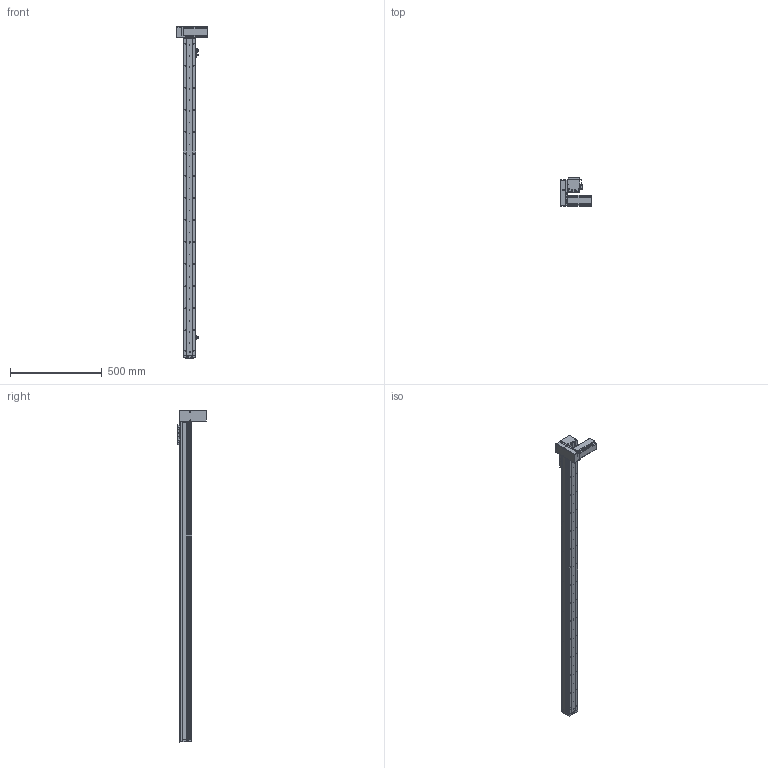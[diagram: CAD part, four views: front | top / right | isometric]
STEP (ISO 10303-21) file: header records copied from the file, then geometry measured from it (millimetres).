
FILE_DESCRIPTION (( 'STEP AP214' ), '1' );
FILE_NAME ('KSD68BS-S1550-MRD-CR.STEP', '2019-11-08T03:47:32', ( '微软用户' ), ( '微软中国' ), 'SwSTEP 2.0', 'SolidWorks 2014', '' );
FILE_SCHEMA (( 'AUTOMOTIVE_DESIGN' ));
Length unit declared in the file: millimetre
Products named in the file (14): KSD68BS 1550行程盖板全封闭; KSD68BS-S1550-MRD-CR; 68遵裔啣揤啣1; 68宽单导轨全封闭丝杆传动安装板1防护罩; KSD68BS 1550行程侧板全封闭; 68宽单导轨全封闭同步带端板; 68单导轨全封闭同步带电机座右; 68单导轨全封闭同步带安装板; 悵誘欶奻狟殏; 68宽马达安装板连板上折同步带; 感应片68宽全封闭; U倰嫖萇EEㄜSX672; 台达ECMA－C20604AS伺服电机（400W); KSD68BS 1550行程底板全封闭
Assembly tree (17 placements, depth 2):
  KSD68BS-S1550-MRD-CR
    KSD68BS 1550行程底板全封闭
    台达ECMA－C20604AS伺服电机（400W)
    U倰嫖萇EEㄜSX672  x3
    感应片68宽全封闭
    68宽马达安装板连板上折同步带
    悵誘欶奻狟殏
    68单导轨全封闭同步带安装板
    68单导轨全封闭同步带电机座右
    68宽单导轨全封闭同步带端板
    KSD68BS 1550行程侧板全封闭  x2
    68宽单导轨全封闭丝杆传动安装板1防护罩
    68遵裔啣揤啣1  x2
    KSD68BS 1550行程盖板全封闭
Bounding box: 167.2 x 155.5 x 1808.1 mm (x, y, z)
Volume: 3278182.7 mm3; surface area: 1321684.3 mm2
Topology: 18 solids, 18 shells, 1604 faces, 4617 edges, 2941 vertices
Faces by surface type: cylinder 785, plane 631, cone 188
Entity records: 52186 total; most frequent: CARTESIAN_POINT 9043, DIRECTION 7777, ORIENTED_EDGE 7438, EDGE_CURVE 3719, AXIS2_PLACEMENT_3D 2833, VERTEX_POINT 2439, LINE 2111, VECTOR 2111
